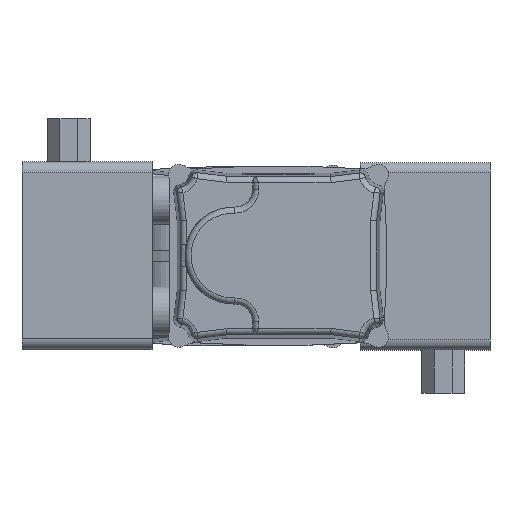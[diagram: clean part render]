
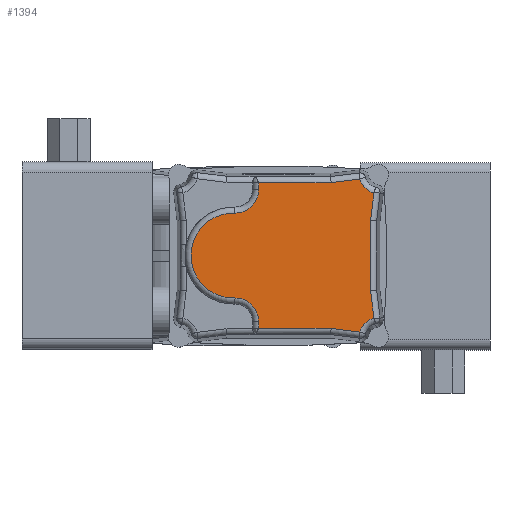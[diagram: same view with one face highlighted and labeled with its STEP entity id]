
A CAD part, top view. The second image highlights one B-rep face of the part: STEP entity #1394.
In plain terms, the highlighted planar face has unit normal (0, 0, 1).
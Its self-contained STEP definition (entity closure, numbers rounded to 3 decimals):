
#1394 = ADVANCED_FACE( '', ( #3120 ), #3121, .T. );
#3120 = FACE_OUTER_BOUND( '', #6409, .T. );
#3121 = PLANE( '', #6410 );
#6409 = EDGE_LOOP( '', ( #13446, #13447, #13448, #13449, #13450, #13451, #13452, #13453, #13454, #13455, #13456, #13457, #13458, #13459, #13460, #13461 ) );
#6410 = AXIS2_PLACEMENT_3D( '', #13462, #13463, #13464 );
#13446 = ORIENTED_EDGE( '', *, *, #17816, .T. );
#13447 = ORIENTED_EDGE( '', *, *, #17817, .T. );
#13448 = ORIENTED_EDGE( '', *, *, #17801, .T. );
#13449 = ORIENTED_EDGE( '', *, *, #17818, .T. );
#13450 = ORIENTED_EDGE( '', *, *, #16398, .T. );
#13451 = ORIENTED_EDGE( '', *, *, #17819, .T. );
#13452 = ORIENTED_EDGE( '', *, *, #17532, .T. );
#13453 = ORIENTED_EDGE( '', *, *, #17425, .T. );
#13454 = ORIENTED_EDGE( '', *, *, #17564, .T. );
#13455 = ORIENTED_EDGE( '', *, *, #17820, .T. );
#13456 = ORIENTED_EDGE( '', *, *, #17016, .T. );
#13457 = ORIENTED_EDGE( '', *, *, #17821, .T. );
#13458 = ORIENTED_EDGE( '', *, *, #17669, .T. );
#13459 = ORIENTED_EDGE( '', *, *, #17822, .T. );
#13460 = ORIENTED_EDGE( '', *, *, #17823, .T. );
#13461 = ORIENTED_EDGE( '', *, *, #17824, .T. );
#13462 = CARTESIAN_POINT( '', ( 47.227, -44.578, 84. ) );
#13463 = DIRECTION( '', ( 0., 0., 1. ) );
#13464 = DIRECTION( '', ( 1., 0., 0. ) );
#16398 = EDGE_CURVE( '', #18794, #18792, #18795, .T. );
#17016 = EDGE_CURVE( '', #19823, #19828, #19830, .T. );
#17425 = EDGE_CURVE( '', #20459, #20457, #20460, .F. );
#17532 = EDGE_CURVE( '', #20612, #20459, #20613, .T. );
#17564 = EDGE_CURVE( '', #20457, #20652, #20654, .T. );
#17669 = EDGE_CURVE( '', #20786, #20791, #20793, .T. );
#17801 = EDGE_CURVE( '', #20970, #20695, #20971, .F. );
#17816 = EDGE_CURVE( '', #20989, #20990, #20991, .T. );
#17817 = EDGE_CURVE( '', #20990, #20970, #20992, .T. );
#17818 = EDGE_CURVE( '', #20695, #18794, #20993, .T. );
#17819 = EDGE_CURVE( '', #18792, #20612, #20994, .T. );
#17820 = EDGE_CURVE( '', #20652, #19823, #20995, .F. );
#17821 = EDGE_CURVE( '', #19828, #20786, #20996, .T. );
#17822 = EDGE_CURVE( '', #20791, #20997, #20998, .T. );
#17823 = EDGE_CURVE( '', #20997, #20999, #21000, .F. );
#17824 = EDGE_CURVE( '', #20999, #20989, #21001, .T. );
#18792 = VERTEX_POINT( '', #22353 );
#18794 = VERTEX_POINT( '', #22376 );
#18795 = LINE( '', #22377, #22378 );
#19823 = VERTEX_POINT( '', #25038 );
#19828 = VERTEX_POINT( '', #25044 );
#19830 = LINE( '', #25046, #25047 );
#20457 = VERTEX_POINT( '', #26812 );
#20459 = VERTEX_POINT( '', #26814 );
#20460 = CIRCLE( '', #26815, 13.5 );
#20612 = VERTEX_POINT( '', #27092 );
#20613 = LINE( '', #27093, #27094 );
#20652 = VERTEX_POINT( '', #27142 );
#20654 = CIRCLE( '', #27144, 24.5 );
#20695 = VERTEX_POINT( '', #27247 );
#20786 = VERTEX_POINT( '', #27432 );
#20791 = VERTEX_POINT( '', #27459 );
#20793 = LINE( '', #27461, #27462 );
#20970 = VERTEX_POINT( '', #27915 );
#20971 = CIRCLE( '', #27916, 10.907 );
#20989 = VERTEX_POINT( '', #27963 );
#20990 = VERTEX_POINT( '', #27964 );
#20991 = LINE( '', #27965, #27966 );
#20992 = LINE( '', #27967, #27968 );
#20993 = LINE( '', #27969, #27970 );
#20994 = CIRCLE( '', #27971, 0.5 );
#20995 = CIRCLE( '', #27972, 13.5 );
#20996 = CIRCLE( '', #27973, 0.5 );
#20997 = VERTEX_POINT( '', #27974 );
#20998 = LINE( '', #27975, #27976 );
#20999 = VERTEX_POINT( '', #27977 );
#21000 = CIRCLE( '', #27978, 10.907 );
#21001 = LINE( '', #27979, #27980 );
#22353 = CARTESIAN_POINT( '', ( 11.491, -42.093, 84. ) );
#22376 = CARTESIAN_POINT( '', ( -30.331, -42.093, 84. ) );
#22377 = CARTESIAN_POINT( '', ( 47.227, -42.093, 84. ) );
#22378 = VECTOR( '', #29859, 1000. );
#25038 = CARTESIAN_POINT( '', ( 11.5, 37.987, 84. ) );
#25044 = CARTESIAN_POINT( '', ( 11.5, 42., 84. ) );
#25046 = CARTESIAN_POINT( '', ( 11.5, -44.578, 84. ) );
#25047 = VECTOR( '', #30581, 1000. );
#26812 = CARTESIAN_POINT( '', ( 25.355, -24.492, 84. ) );
#26814 = CARTESIAN_POINT( '', ( 11.5, -37.987, 84. ) );
#26815 = AXIS2_PLACEMENT_3D( '', #30990, #30991, #30992 );
#27092 = CARTESIAN_POINT( '', ( 11.5, -42., 84. ) );
#27093 = CARTESIAN_POINT( '', ( 11.5, -44.578, 84. ) );
#27094 = VECTOR( '', #31143, 1000. );
#27142 = CARTESIAN_POINT( '', ( 25.355, 24.492, 84. ) );
#27144 = AXIS2_PLACEMENT_3D( '', #31192, #31193, #31194 );
#27247 = CARTESIAN_POINT( '', ( -46.913, -44.129, 84. ) );
#27432 = CARTESIAN_POINT( '', ( 11.491, 42.093, 84. ) );
#27459 = CARTESIAN_POINT( '', ( -30.331, 42.093, 84. ) );
#27461 = CARTESIAN_POINT( '', ( 47.227, 42.093, 84. ) );
#27462 = VECTOR( '', #31307, 1000. );
#27915 = CARTESIAN_POINT( '', ( -55.033, -36.126, 84. ) );
#27916 = AXIS2_PLACEMENT_3D( '', #31419, #31420, #31421 );
#27963 = CARTESIAN_POINT( '', ( -53.093, 20.331, 84. ) );
#27964 = CARTESIAN_POINT( '', ( -53.093, -20.331, 84. ) );
#27965 = CARTESIAN_POINT( '', ( -53.093, -44.578, 84. ) );
#27966 = VECTOR( '', #31428, 1000. );
#27967 = CARTESIAN_POINT( '', ( -54.536, -32.083, 84. ) );
#27968 = VECTOR( '', #31429, 1000. );
#27969 = CARTESIAN_POINT( '', ( 45.775, -32.749, 84. ) );
#27970 = VECTOR( '', #31430, 1000. );
#27971 = AXIS2_PLACEMENT_3D( '', #31431, #31432, #31433 );
#27972 = AXIS2_PLACEMENT_3D( '', #31434, #31435, #31436 );
#27973 = AXIS2_PLACEMENT_3D( '', #31437, #31438, #31439 );
#27974 = CARTESIAN_POINT( '', ( -46.913, 44.129, 84. ) );
#27975 = CARTESIAN_POINT( '', ( 56.559, 31.425, 84. ) );
#27976 = VECTOR( '', #31440, 1000. );
#27977 = CARTESIAN_POINT( '', ( -55.033, 36.126, 84. ) );
#27978 = AXIS2_PLACEMENT_3D( '', #31441, #31442, #31443 );
#27979 = CARTESIAN_POINT( '', ( -43.752, -55.749, 84. ) );
#27980 = VECTOR( '', #31444, 1000. );
#29859 = DIRECTION( '', ( 1., 0., 0. ) );
#30581 = DIRECTION( '', ( 0., 1., 0. ) );
#30990 = CARTESIAN_POINT( '', ( 25., -37.987, 84. ) );
#30991 = DIRECTION( '', ( 0., 0., 1. ) );
#30992 = DIRECTION( '', ( 1., 0., 0. ) );
#31143 = DIRECTION( '', ( 0., 1., 0. ) );
#31192 = CARTESIAN_POINT( '', ( 26., 0., 84. ) );
#31193 = DIRECTION( '', ( 0., 0., 1. ) );
#31194 = DIRECTION( '', ( 1., 0., 0. ) );
#31307 = DIRECTION( '', ( -1., 0., 0. ) );
#31419 = CARTESIAN_POINT( '', ( -57.5, -46.75, 84. ) );
#31420 = DIRECTION( '', ( 0., 0., 1. ) );
#31421 = DIRECTION( '', ( 1., 0., 0. ) );
#31428 = DIRECTION( '', ( 0., -1., 0. ) );
#31429 = DIRECTION( '', ( -0.122, -0.993, 0. ) );
#31430 = DIRECTION( '', ( 0.993, 0.122, 0. ) );
#31431 = CARTESIAN_POINT( '', ( 11., -42., 84. ) );
#31432 = DIRECTION( '', ( 0., 0., 1. ) );
#31433 = DIRECTION( '', ( 1., 0., 0. ) );
#31434 = CARTESIAN_POINT( '', ( 25., 37.987, 84. ) );
#31435 = DIRECTION( '', ( 0., 0., 1. ) );
#31436 = DIRECTION( '', ( 1., 0., 0. ) );
#31437 = CARTESIAN_POINT( '', ( 11., 42., 84. ) );
#31438 = DIRECTION( '', ( 0., 0., 1. ) );
#31439 = DIRECTION( '', ( 1., 0., 0. ) );
#31440 = DIRECTION( '', ( -0.993, 0.122, 0. ) );
#31441 = CARTESIAN_POINT( '', ( -57.5, 46.75, 84. ) );
#31442 = DIRECTION( '', ( 0., 0., 1. ) );
#31443 = DIRECTION( '', ( 1., 0., 0. ) );
#31444 = DIRECTION( '', ( 0.122, -0.993, 0. ) );
